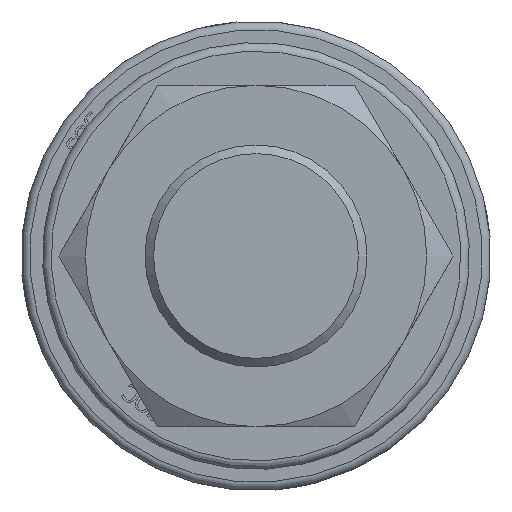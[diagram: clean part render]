
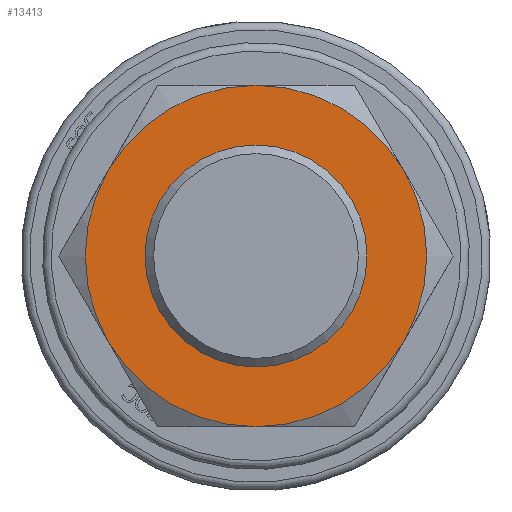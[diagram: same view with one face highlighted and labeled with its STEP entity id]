
A CAD part, front view. The second image highlights one B-rep face of the part: STEP entity #13413.
In plain terms, the highlighted planar face has unit normal (0, -1, 0) as drawn and (-1, 0, 0) by its records, which use the part's own axes.
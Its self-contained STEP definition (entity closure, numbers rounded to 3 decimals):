
#112=CIRCLE('',#14091,26.);
#114=CIRCLE('',#14095,40.);
#115=CIRCLE('',#14096,40.);
#116=CIRCLE('',#14097,40.);
#117=CIRCLE('',#14098,40.);
#118=CIRCLE('',#14099,40.);
#119=CIRCLE('',#14100,40.);
#180=FACE_BOUND('',#1686,.T.);
#391=PLANE('',#14094);
#886=FACE_OUTER_BOUND('',#1685,.T.);
#1685=EDGE_LOOP('',(#10497,#10498,#10499,#10500,#10501,#10502));
#1686=EDGE_LOOP('',(#10503));
#5846=VERTEX_POINT('',#20590);
#5848=VERTEX_POINT('',#20596);
#5849=VERTEX_POINT('',#20597);
#5850=VERTEX_POINT('',#20599);
#5851=VERTEX_POINT('',#20601);
#5852=VERTEX_POINT('',#20603);
#5853=VERTEX_POINT('',#20605);
#7519=EDGE_CURVE('',#5846,#5846,#112,.T.);
#7521=EDGE_CURVE('',#5848,#5849,#114,.T.);
#7522=EDGE_CURVE('',#5849,#5850,#115,.T.);
#7523=EDGE_CURVE('',#5850,#5851,#116,.T.);
#7524=EDGE_CURVE('',#5851,#5852,#117,.T.);
#7525=EDGE_CURVE('',#5852,#5853,#118,.T.);
#7526=EDGE_CURVE('',#5853,#5848,#119,.T.);
#10497=ORIENTED_EDGE('',*,*,#7521,.T.);
#10498=ORIENTED_EDGE('',*,*,#7522,.T.);
#10499=ORIENTED_EDGE('',*,*,#7523,.T.);
#10500=ORIENTED_EDGE('',*,*,#7524,.T.);
#10501=ORIENTED_EDGE('',*,*,#7525,.T.);
#10502=ORIENTED_EDGE('',*,*,#7526,.T.);
#10503=ORIENTED_EDGE('',*,*,#7519,.F.);
#13413=ADVANCED_FACE('',(#886,#180),#391,.F.);
#14091=AXIS2_PLACEMENT_3D('',#20591,#15232,#15233);
#14094=AXIS2_PLACEMENT_3D('',#20595,#15238,#15239);
#14095=AXIS2_PLACEMENT_3D('',#20598,#15240,#15241);
#14096=AXIS2_PLACEMENT_3D('',#20600,#15242,#15243);
#14097=AXIS2_PLACEMENT_3D('',#20602,#15244,#15245);
#14098=AXIS2_PLACEMENT_3D('',#20604,#15246,#15247);
#14099=AXIS2_PLACEMENT_3D('',#20606,#15248,#15249);
#14100=AXIS2_PLACEMENT_3D('',#20607,#15250,#15251);
#15232=DIRECTION('center_axis',(-1.,0.,0.));
#15233=DIRECTION('ref_axis',(0.,0.,-1.));
#15238=DIRECTION('center_axis',(1.,0.,0.));
#15239=DIRECTION('ref_axis',(0.,0.,-1.));
#15240=DIRECTION('center_axis',(-1.,0.,0.));
#15241=DIRECTION('ref_axis',(0.,1.,0.));
#15242=DIRECTION('center_axis',(-1.,0.,0.));
#15243=DIRECTION('ref_axis',(0.,1.,0.));
#15244=DIRECTION('center_axis',(-1.,0.,0.));
#15245=DIRECTION('ref_axis',(0.,1.,0.));
#15246=DIRECTION('center_axis',(-1.,0.,0.));
#15247=DIRECTION('ref_axis',(0.,1.,0.));
#15248=DIRECTION('center_axis',(-1.,0.,0.));
#15249=DIRECTION('ref_axis',(0.,1.,0.));
#15250=DIRECTION('center_axis',(-1.,0.,0.));
#15251=DIRECTION('ref_axis',(0.,1.,0.));
#20590=CARTESIAN_POINT('',(0.,0.,26.));
#20591=CARTESIAN_POINT('Origin',(0.,0.,0.));
#20595=CARTESIAN_POINT('Origin',(0.,0.,0.));
#20596=CARTESIAN_POINT('',(0.,-34.641,-20.));
#20597=CARTESIAN_POINT('',(0.,-34.641,20.));
#20598=CARTESIAN_POINT('Origin',(0.,0.,0.));
#20599=CARTESIAN_POINT('',(0.,0.,40.));
#20600=CARTESIAN_POINT('Origin',(0.,0.,0.));
#20601=CARTESIAN_POINT('',(0.,34.641,20.));
#20602=CARTESIAN_POINT('Origin',(0.,0.,0.));
#20603=CARTESIAN_POINT('',(0.,34.641,-20.));
#20604=CARTESIAN_POINT('Origin',(0.,0.,0.));
#20605=CARTESIAN_POINT('',(0.,0.,-40.));
#20606=CARTESIAN_POINT('Origin',(0.,0.,0.));
#20607=CARTESIAN_POINT('Origin',(0.,0.,0.));
